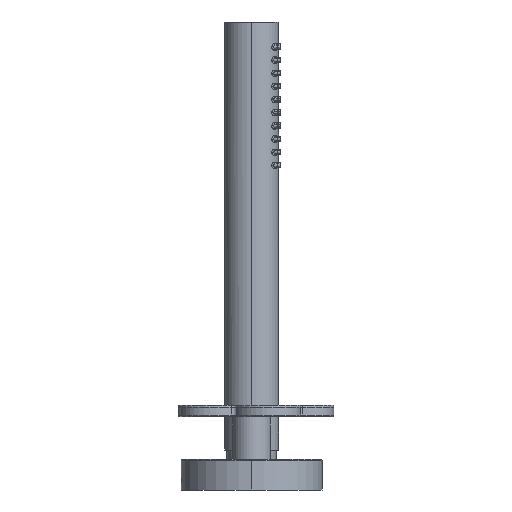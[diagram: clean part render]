
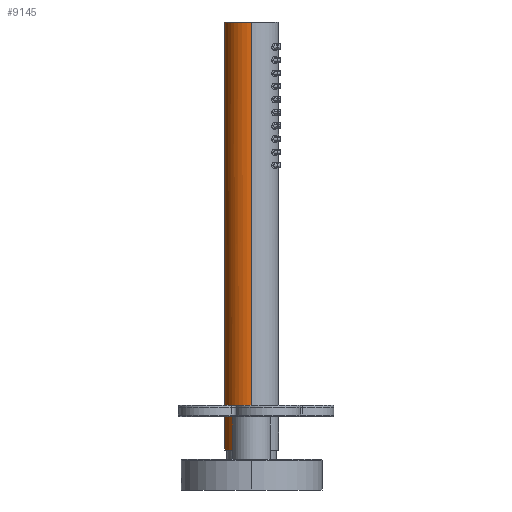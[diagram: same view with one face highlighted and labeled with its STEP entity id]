
A CAD part, left-side view. The second image highlights one B-rep face of the part: STEP entity #9145.
In plain terms, the highlighted cylindrical face has radius 11.5 mm (diameter 23 mm), a partial arc.
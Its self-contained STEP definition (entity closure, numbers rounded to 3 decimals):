
#4350=CARTESIAN_POINT('',(311.5,0.,17.0));
#4351=VERTEX_POINT('',#4350);
#4352=CARTESIAN_POINT('',(288.5,0.,17.0));
#4353=VERTEX_POINT('',#4352);
#4361=CARTESIAN_POINT('',(311.5,0.,199.1));
#4362=VERTEX_POINT('',#4361);
#4363=CARTESIAN_POINT('',(311.5,0.,199.1));
#4364=DIRECTION('',(0.0,0.0,-1.0));
#4365=VECTOR('',#4364,182.1);
#4366=LINE('',#4363,#4365);
#4367=EDGE_CURVE('',#4362,#4351,#4366,.T.);
#4369=CARTESIAN_POINT('',(288.5,0.,199.1));
#4370=VERTEX_POINT('',#4369);
#4378=CARTESIAN_POINT('',(288.5,0.,199.1));
#4379=DIRECTION('',(0.0,0.0,-1.0));
#4380=VECTOR('',#4379,182.1);
#4381=LINE('',#4378,#4380);
#4382=EDGE_CURVE('',#4370,#4353,#4381,.T.);
#9033=CARTESIAN_POINT('',(300.0,0.,199.1));
#9034=DIRECTION('',(0.0,0.0,-1.0));
#9035=DIRECTION('',(0.0,-1.0,0.0));
#9036=AXIS2_PLACEMENT_3D('',#9033,#9034,#9035);
#9037=CYLINDRICAL_SURFACE('',#9036,11.5);
#9038=CARTESIAN_POINT('',(300.0,0.,199.1));
#9039=DIRECTION('',(0.0,0.0,1.0));
#9040=DIRECTION('',(1.0,0.0,0.0));
#9041=AXIS2_PLACEMENT_3D('',#9038,#9039,#9040);
#9042=CIRCLE('',#9041,11.5);
#9043=EDGE_CURVE('',#4362,#4370,#9042,.T.);
#9044=ORIENTED_EDGE('',*,*,#9043,.F.);
#9045=ORIENTED_EDGE('',*,*,#4367,.T.);
#9046=CARTESIAN_POINT('',(301.1,11.447,17.0));
#9047=VERTEX_POINT('',#9046);
#9048=CARTESIAN_POINT('',(300.,0.,17.));
#9049=DIRECTION('',(0.0,0.0,-1.0));
#9050=DIRECTION('',(0.096,0.995,0.0));
#9051=AXIS2_PLACEMENT_3D('',#9048,#9049,#9050);
#9052=CIRCLE('',#9051,11.5);
#9053=EDGE_CURVE('',#9047,#4351,#9052,.T.);
#9054=ORIENTED_EDGE('',*,*,#9053,.F.);
#9055=CARTESIAN_POINT('',(301.1,11.447,18.9));
#9056=VERTEX_POINT('',#9055);
#9057=CARTESIAN_POINT('',(301.1,11.447,18.9));
#9058=DIRECTION('',(0.0,0.0,-1.0));
#9059=VECTOR('',#9058,1.9);
#9060=LINE('',#9057,#9059);
#9061=EDGE_CURVE('',#9056,#9047,#9060,.T.);
#9062=ORIENTED_EDGE('',*,*,#9061,.F.);
#9063=CARTESIAN_POINT('',(300.,11.5,20.));
#9064=VERTEX_POINT('',#9063);
#9065=CARTESIAN_POINT('',(300.,11.5,20.));
#9066=CARTESIAN_POINT('',(300.024,11.5,20.));
#9067=CARTESIAN_POINT('',(300.072,11.5,19.998));
#9068=CARTESIAN_POINT('',(300.143,11.499,19.991));
#9069=CARTESIAN_POINT('',(300.214,11.498,19.98));
#9070=CARTESIAN_POINT('',(300.284,11.497,19.963));
#9071=CARTESIAN_POINT('',(300.353,11.495,19.943));
#9072=CARTESIAN_POINT('',(300.421,11.492,19.917));
#9073=CARTESIAN_POINT('',(300.486,11.49,19.887));
#9074=CARTESIAN_POINT('',(300.55,11.487,19.854));
#9075=CARTESIAN_POINT('',(300.611,11.484,19.815));
#9076=CARTESIAN_POINT('',(300.67,11.481,19.773));
#9077=CARTESIAN_POINT('',(300.726,11.477,19.728));
#9078=CARTESIAN_POINT('',(300.778,11.474,19.678));
#9079=CARTESIAN_POINT('',(300.828,11.47,19.626));
#9080=CARTESIAN_POINT('',(300.873,11.467,19.57));
#9081=CARTESIAN_POINT('',(300.915,11.464,19.511));
#9082=CARTESIAN_POINT('',(300.954,11.46,19.45));
#9083=CARTESIAN_POINT('',(300.987,11.458,19.386));
#9084=CARTESIAN_POINT('',(301.017,11.455,19.321));
#9085=CARTESIAN_POINT('',(301.043,11.453,19.253));
#9086=CARTESIAN_POINT('',(301.063,11.451,19.184));
#9087=CARTESIAN_POINT('',(301.08,11.449,19.114));
#9088=CARTESIAN_POINT('',(301.091,11.448,19.043));
#9089=CARTESIAN_POINT('',(301.098,11.447,18.972));
#9090=CARTESIAN_POINT('',(301.1,11.447,18.924));
#9091=CARTESIAN_POINT('',(301.1,11.447,18.9));
#9092=B_SPLINE_CURVE_WITH_KNOTS('',3,(#9065,#9066,#9067,#9068,#9069,#9070,#9071,#9072,#9073,#9074,#9075,#9076,#9077,#9078,#9079,#9080,#9081,#9082,#9083,#9084,#9085,#9086,#9087,#9088,#9089,#9090,#9091),.UNSPECIFIED.,.F.,.U.,(4,1,1,1,1,1,1,1,1,1,1,1,1,1,1,1,1,1,1,1,1,1,1,1,4),(0.0,0.042,0.083,0.125,0.167,0.208,0.25,0.292,0.333,0.375,0.417,0.458,0.5,0.542,0.583,0.625,0.667,0.708,0.75,0.792,0.833,0.875,0.917,0.958,1.0),.UNSPECIFIED.);
#9093=EDGE_CURVE('',#9064,#9056,#9092,.T.);
#9094=ORIENTED_EDGE('',*,*,#9093,.F.);
#9095=CARTESIAN_POINT('',(298.9,11.447,18.9));
#9096=VERTEX_POINT('',#9095);
#9097=CARTESIAN_POINT('',(298.9,11.447,18.9));
#9098=CARTESIAN_POINT('',(298.9,11.447,18.924));
#9099=CARTESIAN_POINT('',(298.902,11.447,18.972));
#9100=CARTESIAN_POINT('',(298.909,11.448,19.043));
#9101=CARTESIAN_POINT('',(298.92,11.449,19.114));
#9102=CARTESIAN_POINT('',(298.937,11.451,19.184));
#9103=CARTESIAN_POINT('',(298.957,11.453,19.253));
#9104=CARTESIAN_POINT('',(298.983,11.455,19.321));
#9105=CARTESIAN_POINT('',(299.013,11.458,19.386));
#9106=CARTESIAN_POINT('',(299.046,11.46,19.45));
#9107=CARTESIAN_POINT('',(299.085,11.464,19.511));
#9108=CARTESIAN_POINT('',(299.127,11.467,19.57));
#9109=CARTESIAN_POINT('',(299.172,11.47,19.626));
#9110=CARTESIAN_POINT('',(299.222,11.474,19.678));
#9111=CARTESIAN_POINT('',(299.274,11.477,19.728));
#9112=CARTESIAN_POINT('',(299.33,11.481,19.773));
#9113=CARTESIAN_POINT('',(299.389,11.484,19.815));
#9114=CARTESIAN_POINT('',(299.45,11.487,19.854));
#9115=CARTESIAN_POINT('',(299.514,11.49,19.887));
#9116=CARTESIAN_POINT('',(299.579,11.492,19.917));
#9117=CARTESIAN_POINT('',(299.647,11.495,19.943));
#9118=CARTESIAN_POINT('',(299.716,11.497,19.963));
#9119=CARTESIAN_POINT('',(299.786,11.498,19.98));
#9120=CARTESIAN_POINT('',(299.857,11.499,19.991));
#9121=CARTESIAN_POINT('',(299.928,11.5,19.998));
#9122=CARTESIAN_POINT('',(299.976,11.5,20.));
#9123=CARTESIAN_POINT('',(300.,11.5,20.));
#9124=B_SPLINE_CURVE_WITH_KNOTS('',3,(#9097,#9098,#9099,#9100,#9101,#9102,#9103,#9104,#9105,#9106,#9107,#9108,#9109,#9110,#9111,#9112,#9113,#9114,#9115,#9116,#9117,#9118,#9119,#9120,#9121,#9122,#9123),.UNSPECIFIED.,.F.,.U.,(4,1,1,1,1,1,1,1,1,1,1,1,1,1,1,1,1,1,1,1,1,1,1,1,4),(0.0,0.042,0.083,0.125,0.167,0.208,0.25,0.292,0.333,0.375,0.417,0.458,0.5,0.542,0.583,0.625,0.667,0.708,0.75,0.792,0.833,0.875,0.917,0.958,1.0),.UNSPECIFIED.);
#9125=EDGE_CURVE('',#9096,#9064,#9124,.T.);
#9126=ORIENTED_EDGE('',*,*,#9125,.F.);
#9127=CARTESIAN_POINT('',(298.9,11.447,17.0));
#9128=VERTEX_POINT('',#9127);
#9129=CARTESIAN_POINT('',(298.9,11.447,17.0));
#9130=DIRECTION('',(0.0,0.0,1.0));
#9131=VECTOR('',#9130,1.9);
#9132=LINE('',#9129,#9131);
#9133=EDGE_CURVE('',#9128,#9096,#9132,.T.);
#9134=ORIENTED_EDGE('',*,*,#9133,.F.);
#9135=CARTESIAN_POINT('',(300.0,0.,17.0));
#9136=DIRECTION('',(0.0,0.0,-1.0));
#9137=DIRECTION('',(-1.0,0.0,0.0));
#9138=AXIS2_PLACEMENT_3D('',#9135,#9136,#9137);
#9139=CIRCLE('',#9138,11.5);
#9140=EDGE_CURVE('',#4353,#9128,#9139,.T.);
#9141=ORIENTED_EDGE('',*,*,#9140,.F.);
#9142=ORIENTED_EDGE('',*,*,#4382,.F.);
#9143=EDGE_LOOP('',(#9044,#9045,#9054,#9062,#9094,#9126,#9134,#9141,#9142));
#9144=FACE_OUTER_BOUND('',#9143,.T.);
#9145=ADVANCED_FACE('',(#9144),#9037,.T.);
